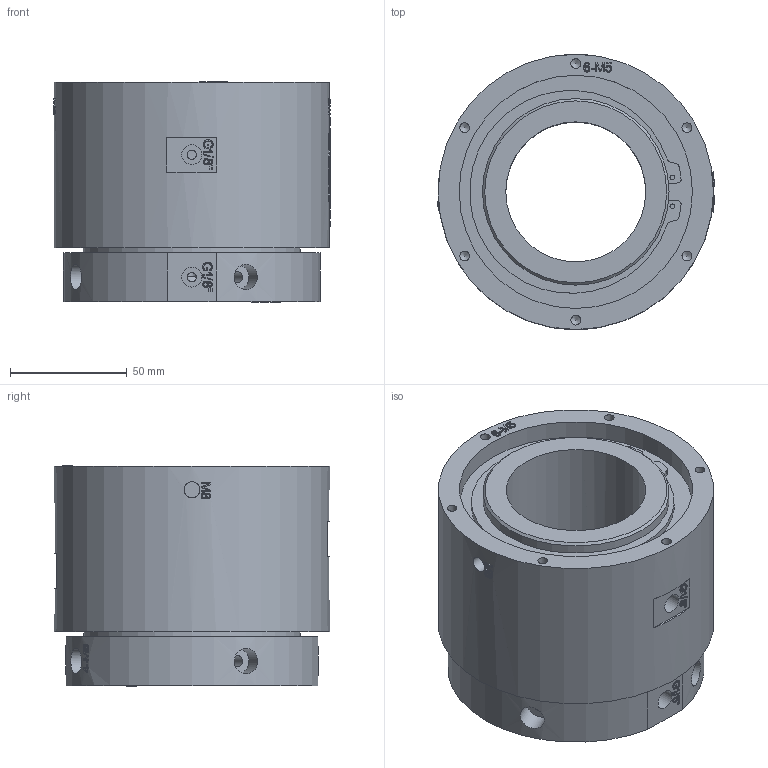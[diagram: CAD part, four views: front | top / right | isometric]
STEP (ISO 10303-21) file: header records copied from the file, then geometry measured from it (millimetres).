
FILE_DESCRIPTION(/* description */ (''),/* implementation_level */ '2;1');
FILE_NAME(/* name */ 'HQ0201D60-3D模型.stp',/* time_stamp */ '2025-08-05T12:00:19+08:00',/* author */ (''),/* organization */ (''),/* preprocessor_version */ 'ST-DEVELOPER v16.7',/* originating_system */ 'SIEMENS PLM Software NX 12.0',/* authorisation */ '');
FILE_SCHEMA (('AUTOMOTIVE_DESIGN { 1 0 10303 214 3 1 1 1 }'));
Products named in the file (1): Admi16E026DChwrk
Bounding box: 118.75 x 118 x 94.4 mm (x, y, z)
Volume: 689525.2 mm3; surface area: 86090.2 mm2
Topology: 1 solids, 1 shells, 1337 faces, 3652 edges, 2438 vertices
Faces by surface type: extrusion 729, plane 455, cylinder 74, bspline 66, cone 13
Full cylindrical faces by diameter (mm): 2 x2, 4 x6, 4.1 x2, 4.2 x8, 5 x4, 6.8 x6, 8.5 x4, 11 x4, 60 x1, 76.5 x1, 80 x1, 93 x1, 100 x1, 118 x1
Entity records: 52012 total; most frequent: CARTESIAN_POINT 23931, ORIENTED_EDGE 7112, EDGE_CURVE 3556, B_SPLINE_CURVE_WITH_KNOTS 3498, DIRECTION 2877, VERTEX_POINT 2410, EDGE_LOOP 1526, ADVANCED_FACE 1337
